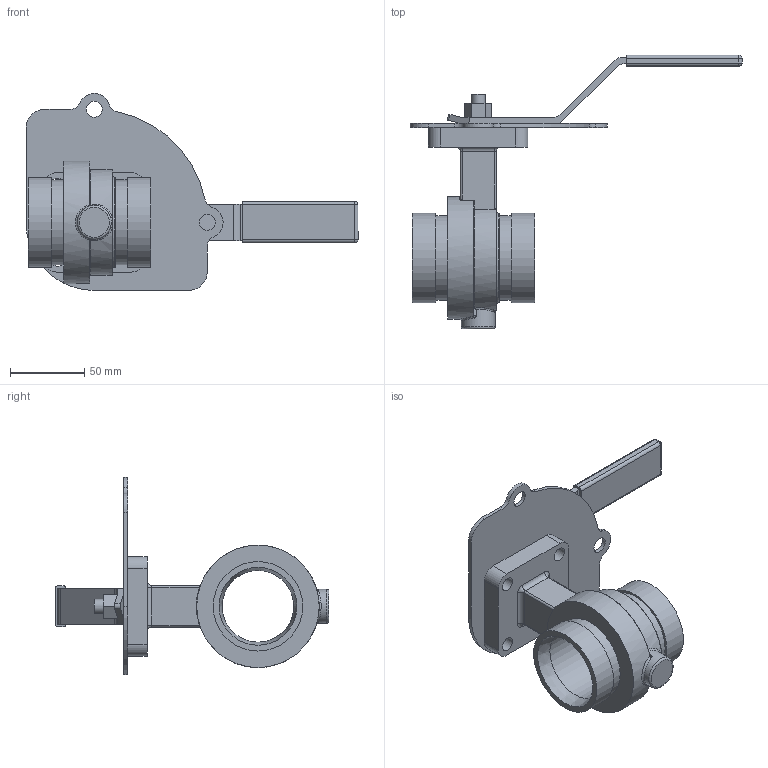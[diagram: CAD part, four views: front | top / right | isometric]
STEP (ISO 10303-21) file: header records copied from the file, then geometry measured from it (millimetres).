
FILE_DESCRIPTION(/* description */ ('Vic Series 461 Vic-300 SS w/ Lever Handle Butterfly Valve','CAx-IF Rec.Pracs.---Representation and Presentation of Product Manufacturing Information (PMI)---4.0---2014-10-13'),/* implementation_level */ '2;1');
FILE_NAME(/* name */ 'C:\Users\kkamble\AppData\Roaming\Autodesk\ApplicationPlugins\Back Up\Victaulic_SS-OGS_Valve Butterfly Vic-300 Masterseal Lever Handle_Series 461 (OGS)\Victaulic_SS-OGS_Valve Butterfly Vic-300 Masterseal Lever Handle_2 (50).stp',/* time_stamp */ '2020-09-02T14:52:12+05:00',/* author */ ('jbrannon'),/* organization */ ('Victaulic'),/* preprocessor_version */ 'ST-DEVELOPER v17.2',/* originating_system */ 'Autodesk Inventor 2019',/* authorisation */ '');
FILE_SCHEMA (('AP242_MANAGED_MODEL_BASED_3D_ENGINEERING_MIM_LF { 1 0 10303 442 1 1 4 }'));
Length unit declared in the file: inch
Products named in the file (4): 461-02.0; 461-02.0_1; 461-02.0_2; 461-02.0_3
Assembly tree (3 placements, depth 2):
  461-02.0
    461-02.0_1
    461-02.0_2
    461-02.0_3
Bounding box: 223.76 x 184.41 x 132.84 mm (x, y, z)
Volume: 281688.5 mm3; surface area: 95985.2 mm2
Topology: 3 solids, 3 shells, 160 faces, 395 edges, 249 vertices
Faces by surface type: cylinder 67, plane 53, bspline 18, torus 14, sphere 6, cone 2
Full cylindrical faces by diameter (mm): 9.652 x10, 10.668 x2, 18.288 x1, 22.86 x1, 48.26 x1, 54.102 x1, 57.15 x2, 60.325 x3, 82.55 x1
Entity records: 5689 total; most frequent: CARTESIAN_POINT 1478, DIRECTION 839, ORIENTED_EDGE 788, EDGE_CURVE 394, AXIS2_PLACEMENT_3D 334, VERTEX_POINT 250, EDGE_LOOP 196, CIRCLE 185
